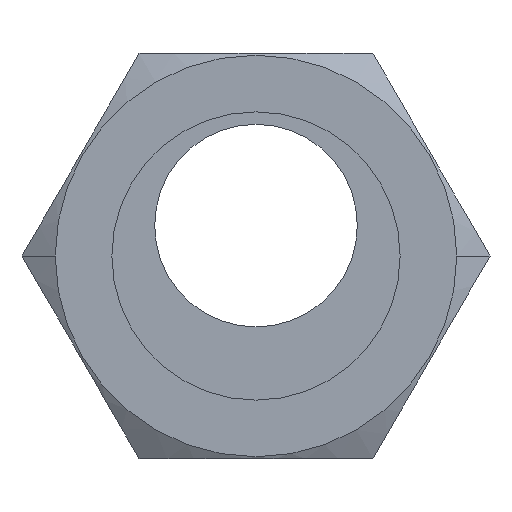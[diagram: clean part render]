
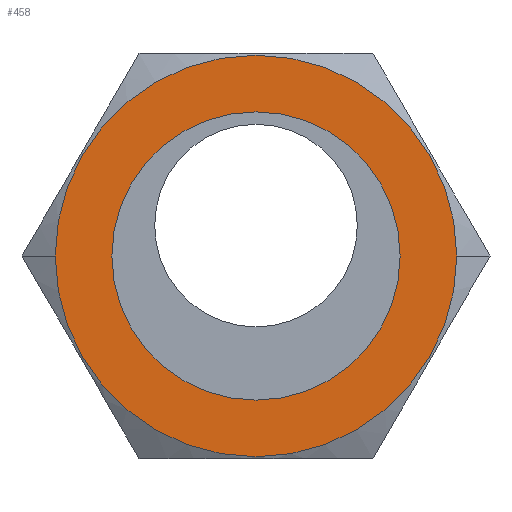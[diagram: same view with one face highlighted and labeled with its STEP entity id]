
A CAD part, front view. The second image highlights one B-rep face of the part: STEP entity #458.
In plain terms, the highlighted planar face has unit normal (0, -1, 0).
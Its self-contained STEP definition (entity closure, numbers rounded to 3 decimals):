
#16=CARTESIAN_POINT('',(0.,0.,0.));
#17=DIRECTION('',(0.,-1.,0.));
#18=DIRECTION('',(0.,0.,-1.));
#19=AXIS2_PLACEMENT_3D('',#16,#17,#18);
#25=CARTESIAN_POINT('',(0.,0.,0.));
#26=DIRECTION('',(0.,-1.,0.));
#27=DIRECTION('',(0.,0.,1.));
#28=AXIS2_PLACEMENT_3D('',#25,#26,#27);
#33=CARTESIAN_POINT('',(0.,0.,0.));
#34=DIRECTION('',(0.,1.,0.));
#35=DIRECTION('',(-1.,0.,0.));
#36=AXIS2_PLACEMENT_3D('',#33,#34,#35);
#41=CARTESIAN_POINT('',(0.,0.,0.));
#42=DIRECTION('',(0.,1.,0.));
#43=DIRECTION('',(1.,0.,0.));
#44=AXIS2_PLACEMENT_3D('',#41,#42,#43);
#415=CARTESIAN_POINT('',(0.,0.,-3.556));
#416=CARTESIAN_POINT('',(0.,0.,3.556));
#417=VERTEX_POINT('',#415);
#418=VERTEX_POINT('',#416);
#430=CARTESIAN_POINT('',(-4.953,0.,0.));
#432=VERTEX_POINT('',#430);
#434=CARTESIAN_POINT('',(4.953,0.,0.));
#436=VERTEX_POINT('',#434);
#441=CARTESIAN_POINT('',(0.,0.,0.));
#442=DIRECTION('',(0.,1.,0.));
#443=DIRECTION('',(1.,0.,0.));
#444=AXIS2_PLACEMENT_3D('',#441,#442,#443);
#445=PLANE('',#444);
#447=ORIENTED_EDGE('',*,*,#446,.T.);
#449=ORIENTED_EDGE('',*,*,#448,.T.);
#450=EDGE_LOOP('',(#447,#449));
#451=FACE_OUTER_BOUND('',#450,.F.);
#453=ORIENTED_EDGE('',*,*,#452,.T.);
#455=ORIENTED_EDGE('',*,*,#454,.T.);
#456=EDGE_LOOP('',(#453,#455));
#457=FACE_BOUND('',#456,.F.);
#458=ADVANCED_FACE('',(#451,#457),#445,.F.);
#20=CIRCLE('',#19,3.556);
#29=CIRCLE('',#28,3.556);
#37=CIRCLE('',#36,4.953);
#45=CIRCLE('',#44,4.953);
#446=EDGE_CURVE('',#432,#436,#37,.T.);
#448=EDGE_CURVE('',#436,#432,#45,.T.);
#452=EDGE_CURVE('',#417,#418,#20,.T.);
#454=EDGE_CURVE('',#418,#417,#29,.T.);
